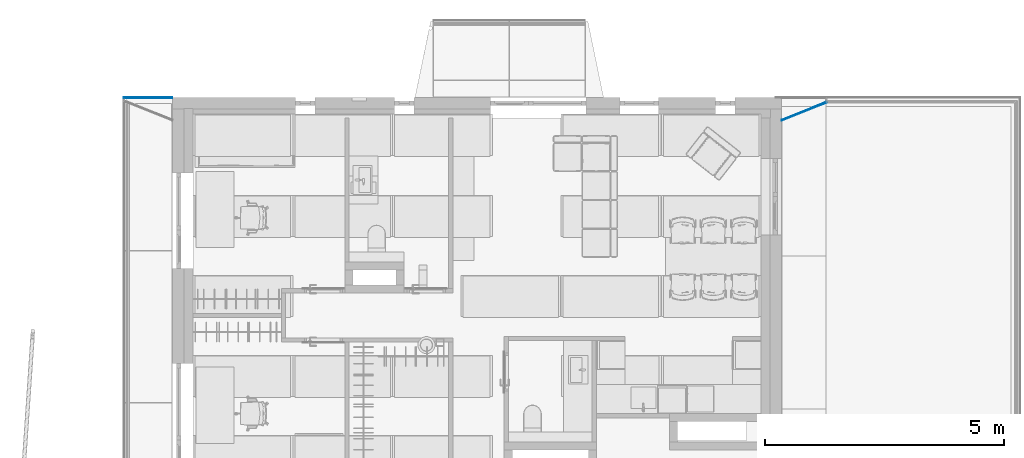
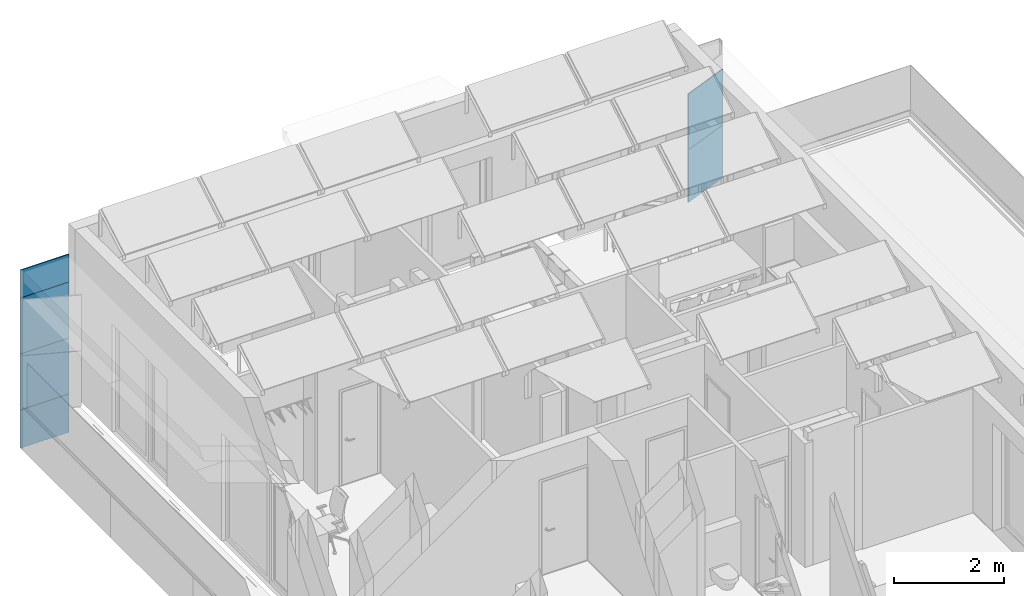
# One storey, part 11 of 57: 12 building element parts, 2 elements without a shape of their own.
"""IFC2X3 building model written with IfcOpenShell, lengths in millimetres."""

from ifc_helpers import new_model, entity, si_unit, converted_unit, direction, frame, frame_2d, origin, place, context, subcontext, project, spatial, polyline, rectangle, outline, extrude, material, type_object, element, aggregate, save


model = new_model("IFC2X3")

# Units and contexts
model_context = context("Model", 3, precision=0.01, world=origin(), true_north=direction((6.123233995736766e-17, 1.0)))
plan_context = context("Plan", 3, precision=0.01, world=origin(), true_north=direction((6.123233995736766e-17, 1.0)))
body_context = subcontext(model_context, "Body", "Model", "MODEL_VIEW")
ifc_project = project(units=[si_unit("LENGTHUNIT", "METRE", prefix="MILLI"), converted_unit("PLANEANGLEUNIT", "DEGREE", entity("IfcPlaneAngleMeasure", 0.017453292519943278), si_unit("PLANEANGLEUNIT", "RADIAN"), dimensions=[0, 0, 0, 0, 0, 0, 0]), si_unit("AREAUNIT", "SQUARE_METRE")], contexts=[model_context, plan_context])

# Site, building, storey
site_placement = place(None, origin())
site = spatial("IfcSite", under=ifc_project, at=site_placement, Name="Default", CompositionType="ELEMENT")
building_placement = place(site_placement, origin())
building = spatial("IfcBuilding", under=site, at=building_placement, CompositionType="ELEMENT")
storey_placement = place(building_placement, frame((0.0, 0.0, 12811.000000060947)))
storey = spatial("IfcBuildingStorey", under=building, at=storey_placement, Name="5K", CompositionType="ELEMENT", Elevation=12811.000000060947)

# Wall, building element parts
wall_type = type_object("IfcWallType", Name="Basic Wall:VS-komposiit", PredefinedType="STANDARD")
wall_1_placement = place(storey_placement, frame((12333.714333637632, 15351.038473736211, -20.0), z_axis=(0.0, 0.0, 1.0), x_axis=(0.9284596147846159, 0.3714333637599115, 0.0)))
wall_1 = element("IfcWall", 1, at=wall_1_placement, inside=storey, type_object=wall_type, Name="Basic Wall:VS-komposiit", ObjectType="Basic Wall:VS-komposiit")
ifc_material_1 = material(Name="_K. Välisviimistlus. Alumiinium-komposiitplaat")
building_element_part_1_placement = place(wall_1_placement, origin())
building_element_part_1 = element("IfcBuildingElementPart", 2, at=building_element_part_1_placement, material=ifc_material_1, Name="Part", context=body_context, shape_type="SweptSolid", body=[
    extrude(outline(polyline([(185.54613592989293, -469.1880452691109), (189.85434701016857, -469.1880452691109), (-185.84332224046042, 469.9309119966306), (-189.55716069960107, 468.4451785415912), (185.54613592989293, -469.1880452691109)])), frame((505.34028383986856, -8.0, 0.0), z_axis=(0.0, 0.0, 1.0), x_axis=(0.3714333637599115, 0.9284596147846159, 0.0)), (0.0, 0.0, 1.0), 1169.9999999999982),
])
ifc_material_2 = material(Name="_K. Õhk. Roov. Fassaadikatte alusroov. Horisontaalne. 25 mm")
building_element_part_2_placement = place(wall_1_placement, origin())
building_element_part_2 = element("IfcBuildingElementPart", 3, at=building_element_part_2_placement, material=ifc_material_2, Name="Part", context=body_context, shape_type="SweptSolid", body=[
    extrude(outline(polyline([(179.02667841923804, -469.04521208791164), (196.25952274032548, -469.04521208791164), (-180.2154236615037, 472.01667899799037), (-195.0707774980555, 466.0737451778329), (179.02667841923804, -469.04521208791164)])), frame((505.18644496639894, 2.0, 0.0), z_axis=(0.0, 0.0, 1.0), x_axis=(0.3714333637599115, 0.9284596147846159, 0.0)), (0.0, 0.0, 1.0), 1169.9999999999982),
])
building_element_part_3_placement = place(wall_1_placement, origin())
building_element_part_3 = element("IfcBuildingElementPart", 4, at=building_element_part_3_placement, material=ifc_material_2, Name="Part", context=body_context, shape_type="SweptSolid", body=[
    extrude(outline(polyline([(179.02667841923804, -469.04521208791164), (196.25952274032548, -469.04521208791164), (-180.2154236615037, 472.01667899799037), (-195.07077749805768, 466.07374517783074), (179.02667841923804, -469.04521208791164)])), frame((505.18644496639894, 2.0, 1175.0), z_axis=(0.0, 0.0, 1.0), x_axis=(0.3714333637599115, 0.9284596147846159, 0.0)), (0.0, 0.0, 1.0), 1240.0000000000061),
])
building_element_part_4_placement = place(wall_1_placement, origin())
building_element_part_4 = element("IfcBuildingElementPart", 5, at=building_element_part_4_placement, material=ifc_material_1, Name="Part", context=body_context, shape_type="SweptSolid", body=[
    extrude(outline(polyline([(185.54613592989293, -469.1880452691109), (189.85434701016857, -469.1880452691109), (-185.84332224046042, 469.93091199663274), (-189.55716069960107, 468.4451785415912), (185.54613592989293, -469.1880452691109)])), frame((505.34028383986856, -8.0, 1175.0), z_axis=(0.0, 0.0, 1.0), x_axis=(0.3714333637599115, 0.9284596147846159, 0.0)), (0.0, 0.0, 1.0), 1240.0000000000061),
])
aggregate(wall_1, [building_element_part_1, building_element_part_2, building_element_part_3, building_element_part_4])

wall_2_placement = place(storey_placement, frame((-1451.0, 15821.99658844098, -946.0)))
wall_2 = element("IfcWall", 6, at=wall_2_placement, inside=storey, type_object=wall_type, Name="Basic Wall:VS-komposiit", ObjectType="Basic Wall:VS-komposiit")
building_element_part_5_placement = place(wall_2_placement, origin())
building_element_part_5 = element("IfcBuildingElementPart", 7, at=building_element_part_5_placement, material=ifc_material_1, Name="Part", context=body_context, shape_type="SweptSolid", body=[
    extrude(rectangle(XDim=3.9999999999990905, YDim=1016.0000000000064, at=frame_2d((0.0, -1.4210854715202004e-13), x_axis=(1.0, 0.0))), frame((508.0, 8.0, 2101.0), z_axis=(0.0, 0.0, 1.0), x_axis=(0.0, -1.0, 0.0)), (0.0, 0.0, 1.0), 1240.0000000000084),
])
building_element_part_6_placement = place(wall_2_placement, origin())
building_element_part_6 = element("IfcBuildingElementPart", 8, at=building_element_part_6_placement, material=ifc_material_2, Name="Part", context=body_context, shape_type="SweptSolid", body=[
    extrude(rectangle(XDim=16.000000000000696, YDim=1012.0000000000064, at=frame_2d((-2.1662671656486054e-12, -1.4210854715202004e-13), x_axis=(1.0, 0.0))), frame((510.0, -2.0, 2101.0), z_axis=(0.0, 0.0, 1.0), x_axis=(0.0, -1.0, 0.0)), (0.0, 0.0, 1.0), 1240.0000000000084),
])
building_element_part_7_placement = place(wall_2_placement, origin())
building_element_part_7 = element("IfcBuildingElementPart", 9, at=building_element_part_7_placement, material=ifc_material_2, Name="Part", context=body_context, shape_type="SweptSolid", body=[
    extrude(rectangle(XDim=16.000000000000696, YDim=1012.0000000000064, at=frame_2d((-2.1662671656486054e-12, -1.4210854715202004e-13), x_axis=(1.0, 0.0))), frame((510.0, -2.0, 856.0), z_axis=(0.0, 0.0, 1.0), x_axis=(0.0, -1.0, 0.0)), (0.0, 0.0, 1.0), 1240.0000000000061),
])
building_element_part_8_placement = place(wall_2_placement, origin())
building_element_part_8 = element("IfcBuildingElementPart", 10, at=building_element_part_8_placement, material=ifc_material_2, Name="Part", context=body_context, shape_type="SweptSolid", body=[
    extrude(rectangle(XDim=16.000000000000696, YDim=1012.0000000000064, at=frame_2d((-2.1662671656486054e-12, -1.4210854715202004e-13), x_axis=(1.0, 0.0))), frame((510.0, -2.0, 0.0), z_axis=(0.0, 0.0, 1.0), x_axis=(0.0, -1.0, 0.0)), (0.0, 0.0, 1.0), 851.0000000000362),
])
building_element_part_9_placement = place(wall_2_placement, origin())
building_element_part_9 = element("IfcBuildingElementPart", 11, at=building_element_part_9_placement, material=ifc_material_2, Name="Part", context=body_context, shape_type="SweptSolid", body=[
    extrude(rectangle(XDim=16.000000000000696, YDim=1012.0000000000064, at=frame_2d((-2.1662671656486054e-12, -1.4210854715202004e-13), x_axis=(1.0, 0.0))), frame((510.0, -2.0, 3346.0), z_axis=(0.0, 0.0, 1.0), x_axis=(0.0, -1.0, 0.0)), (0.0, 0.0, 1.0), 614.9999999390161),
])
building_element_part_10_placement = place(wall_2_placement, origin())
building_element_part_10 = element("IfcBuildingElementPart", 12, at=building_element_part_10_placement, material=ifc_material_1, Name="Part", context=body_context, shape_type="SweptSolid", body=[
    extrude(rectangle(XDim=3.9999999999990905, YDim=1016.0000000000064, at=frame_2d((0.0, -1.4210854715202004e-13), x_axis=(1.0, 0.0))), frame((508.0, 8.0, 856.0), z_axis=(0.0, 0.0, 1.0), x_axis=(0.0, -1.0, 0.0)), (0.0, 0.0, 1.0), 1240.0000000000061),
])
building_element_part_11_placement = place(wall_2_placement, origin())
building_element_part_11 = element("IfcBuildingElementPart", 13, at=building_element_part_11_placement, material=ifc_material_1, Name="Part", context=body_context, shape_type="SweptSolid", body=[
    extrude(rectangle(XDim=3.9999999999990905, YDim=1016.0000000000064, at=frame_2d((0.0, -1.4210854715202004e-13), x_axis=(1.0, 0.0))), frame((508.0, 8.0, 0.0), z_axis=(0.0, 0.0, 1.0), x_axis=(0.0, -1.0, 0.0)), (0.0, 0.0, 1.0), 851.0000000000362),
])
building_element_part_12_placement = place(wall_2_placement, origin())
building_element_part_12 = element("IfcBuildingElementPart", 14, at=building_element_part_12_placement, material=ifc_material_1, Name="Part", context=body_context, shape_type="SweptSolid", body=[
    extrude(rectangle(XDim=3.9999999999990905, YDim=1016.0000000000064, at=frame_2d((0.0, -1.4210854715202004e-13), x_axis=(1.0, 0.0))), frame((508.0, 8.0, 3346.0), z_axis=(0.0, 0.0, 1.0), x_axis=(0.0, -1.0, 0.0)), (0.0, 0.0, 1.0), 614.9999999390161),
])
aggregate(wall_2, [building_element_part_5, building_element_part_6, building_element_part_7, building_element_part_8, building_element_part_9, building_element_part_10, building_element_part_11, building_element_part_12])

save(model, "model.ifc")
